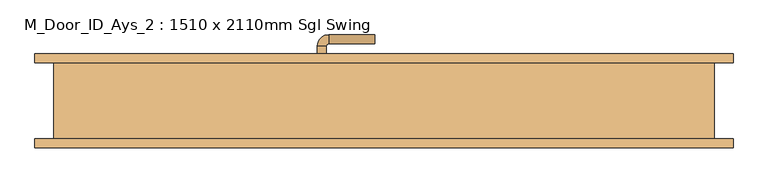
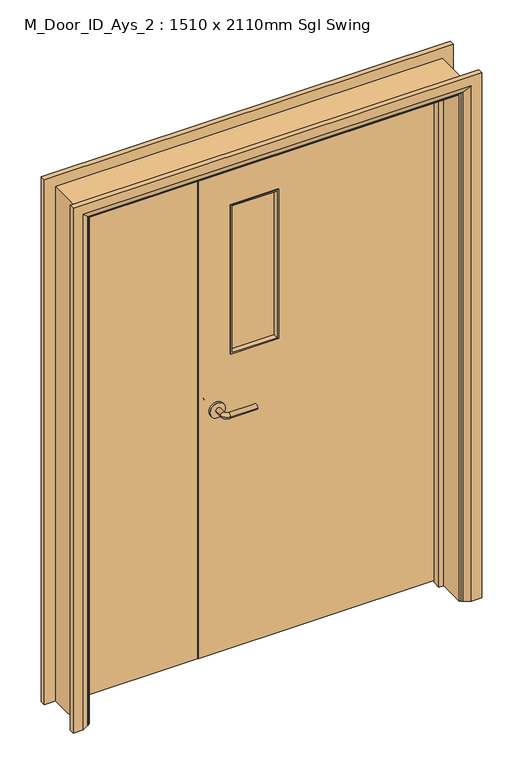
"""IFC4 building model written with IfcOpenShell, lengths in millimetres: door geometry, M_Door_ID_Ays_2 : 1510 x 2110mm Sgl Swing."""

from ifc_helpers import new_model, si_unit, point, frame, frame_2d, origin, place, context, project, spatial, polyline, circle_curve, ellipse_curve, trimmed, segment, composite_curve, outline, extrude, faceted_brep, source, transform, mapped, element, save
from ifc_brep_helpers import plane_surface, cylinder_surface, revolved_surface, advanced_brep


def m_door_id_ays_2_1510_x_2110mm_sgl_swing_9d738ba0(model_context):
    return source(origin(), model_context, "Body", "SolidModel", [
        advanced_brep(
        [(88.5, 46.0, 1000.0), (108.5, 46.0, 1000.0), (108.5, 16.0, 1000.0), (88.5, 16.0, 1000.0), (113.5, 11.0, 1000.0), (113.5, -9.0, 1000.0), (218.5, -9.0, 1000.0), (218.5, 11.0, 1000.0)],
        [
            (0, 1, circle_curve(frame((98.5, 46.0, 1000.0), z_axis=(0.0, 1.0, 0.0), x_axis=(1.0, 0.0, 0.0)), 10.0)),
            (1, 0, circle_curve(frame((98.5, 46.0, 1000.0), z_axis=(0.0, 1.0, 0.0), x_axis=(1.0, 0.0, 0.0)), 10.0)),
            (1, 2),
            (2, 3, circle_curve(frame((98.5, 16.0, 1000.0), z_axis=(0.0, 1.0, 0.0), x_axis=(1.0, 0.0, 0.0)), 10.0)),
            (3, 0),
            (3, 2, circle_curve(frame((98.5, 16.0, 1000.0), z_axis=(0.0, 1.0, 0.0), x_axis=(1.0, 0.0, 0.0)), 10.0)),
            (4, 5, circle_curve(frame((113.5, 1.0, 1000.0), z_axis=(-1.0, 0.0, 0.0), x_axis=(0.0, 1.0, 0.0)), 10.0)),
            (5, 3, circle_curve(frame((113.5, 16.0, 1000.0), z_axis=(0.0, 0.0, -1.0), x_axis=(-1.0, 0.0, 0.0)), 25.0)),
            (2, 4, circle_curve(frame((113.5, 16.0, 1000.0), z_axis=(0.0, 0.0, 1.0), x_axis=(-1.0, 0.0, 0.0)), 5.0)),
            (5, 4, circle_curve(frame((113.5, 1.0, 1000.0), z_axis=(-1.0, 0.0, 0.0), x_axis=(0.0, 1.0, 0.0)), 10.0)),
            (6, 7, circle_curve(frame((218.5, 1.0, 1000.0), z_axis=(1.0, 0.0, 0.0), x_axis=(0.0, 1.0, 0.0)), 10.0)),
            (7, 6, circle_curve(frame((218.5, 1.0, 1000.0), z_axis=(1.0, 0.0, 0.0), x_axis=(0.0, 1.0, 0.0)), 10.0)),
            (4, 7),
            (6, 5),
        ],
        [
            plane_surface(frame((98.5, 46.0, 1000.0), z_axis=(0.0, 1.0, 0.0), x_axis=(0.0, 0.0, 1.0))),
            cylinder_surface(frame((98.5, 46.0, 1000.0), z_axis=(0.0, 1.0, 0.0), x_axis=(1.0, 0.0, 0.0)), 10.0),
            revolved_surface(trimmed(ellipse_curve(frame((98.5, 16.0, 1000.0), z_axis=(0.0, -1.0, 0.0), x_axis=(1.0, 0.0, 0.0)), 10.0, 10.0), [point((88.5, 16.0, 1000.0))], [point((108.5, 16.0, 1000.0))], True, "CARTESIAN"), (113.5, 16.0, 1000.0), (0.0, 0.0, -1.0)),
            revolved_surface(trimmed(ellipse_curve(frame((98.5, 16.0, 1000.0), z_axis=(0.0, -1.0, 0.0), x_axis=(1.0, 0.0, 0.0)), 10.0, 10.0), [point((108.5, 16.0, 1000.0))], [point((88.5, 16.0, 1000.0))], True, "CARTESIAN"), (113.5, 16.0, 1000.0), (0.0, 0.0, -1.0)),
            plane_surface(frame((218.5, 1.0, 1000.0), z_axis=(1.0, 0.0, 0.0), x_axis=(0.0, 0.0, 1.0))),
            cylinder_surface(frame((113.5, 1.0, 1000.0), z_axis=(-1.0, 0.0, 0.0), x_axis=(0.0, 1.0, 0.0)), 10.0),
        ],
        [
            (0, [[1, 2]]),
            (1, [[3, 4, 5, -2]]),
            (1, [[-5, 6, -3, -1]]),
            (2, [[7, 8, -4, 9]]),
            (3, [[10, -9, -6, -8]]),
            (4, [[11, 12]]),
            (5, [[13, -11, 14, -7]]),
            (5, [[-14, -12, -13, -10]]),
        ],
    ),
        extrude(outline(composite_curve([segment(trimmed(circle_curve(frame_2d((1000.0, 96.0)), 30.0), [point((1000.0, 66.0))], [point((1000.0, 126.0))], False, "CARTESIAN"), True, "CONTINUOUS"), segment(trimmed(circle_curve(frame_2d((1000.0, 96.0)), 30.0), [point((1000.0, 126.0))], [point((1000.0, 66.0))], False, "CARTESIAN"), True, "CONTINUOUS")], self_intersect=False)), frame((0.0, 46.0, 0.0), z_axis=(0.0, 1.0, 0.0), x_axis=(0.0, 0.0, 1.0)), (0.0, 0.0, 1.0), 8.0),
        advanced_brep(
        [(88.5, 94.0, 1000.0), (108.5, 94.0, 1000.0), (88.5, 124.0, 1000.0), (108.5, 124.0, 1000.0), (113.5, 129.0, 1000.0), (113.5, 149.0, 1000.0), (218.5, 149.0, 1000.0), (218.5, 129.0, 1000.0)],
        [
            (0, 1, circle_curve(frame((98.5, 94.0, 1000.0), z_axis=(0.0, -1.0, 0.0), x_axis=(1.0, 0.0, 0.0)), 10.0)),
            (1, 0, circle_curve(frame((98.5, 94.0, 1000.0), z_axis=(0.0, -1.0, 0.0), x_axis=(1.0, 0.0, 0.0)), 10.0)),
            (0, 2),
            (2, 3, circle_curve(frame((98.5, 124.0, 1000.0), z_axis=(0.0, -1.0, 0.0), x_axis=(1.0, 0.0, 0.0)), 10.0)),
            (3, 1),
            (3, 2, circle_curve(frame((98.5, 124.0, 1000.0), z_axis=(0.0, -1.0, 0.0), x_axis=(1.0, 0.0, 0.0)), 10.0)),
            (4, 3, circle_curve(frame((113.5, 124.0, 1000.0), z_axis=(0.0, 0.0, 1.0), x_axis=(-1.0, 0.0, 0.0)), 5.0)),
            (2, 5, circle_curve(frame((113.5, 124.0, 1000.0), z_axis=(0.0, 0.0, -1.0), x_axis=(-1.0, 0.0, 0.0)), 25.0)),
            (5, 4, circle_curve(frame((113.5, 139.0, 1000.0), z_axis=(-1.0, 0.0, 0.0), x_axis=(0.0, -1.0, 0.0)), 10.0)),
            (4, 5, circle_curve(frame((113.5, 139.0, 1000.0), z_axis=(-1.0, 0.0, 0.0), x_axis=(0.0, -1.0, 0.0)), 10.0)),
            (6, 7, circle_curve(frame((218.5, 139.0, 1000.0), z_axis=(1.0, 0.0, 0.0), x_axis=(0.0, -1.0, 0.0)), 10.0)),
            (7, 6, circle_curve(frame((218.5, 139.0, 1000.0), z_axis=(1.0, 0.0, 0.0), x_axis=(0.0, -1.0, 0.0)), 10.0)),
            (5, 6),
            (7, 4),
        ],
        [
            plane_surface(frame((98.5, 94.0, 1000.0), z_axis=(0.0, -1.0, 0.0), x_axis=(0.0, 0.0, 1.0))),
            cylinder_surface(frame((98.5, 94.0, 1000.0), z_axis=(0.0, -1.0, 0.0), x_axis=(1.0, 0.0, 0.0)), 10.0),
            revolved_surface(trimmed(ellipse_curve(frame((98.5, 124.0, 1000.0), z_axis=(0.0, -1.0, 0.0), x_axis=(1.0, 0.0, 0.0)), 10.0, 10.0), [point((88.5, 124.0, 1000.0))], [point((108.5, 124.0, 1000.0))], True, "CARTESIAN"), (113.5, 124.0, 1000.0), (0.0, 0.0, -1.0)),
            revolved_surface(trimmed(ellipse_curve(frame((98.5, 124.0, 1000.0), z_axis=(0.0, -1.0, 0.0), x_axis=(1.0, 0.0, 0.0)), 10.0, 10.0), [point((108.5, 124.0, 1000.0))], [point((88.5, 124.0, 1000.0))], True, "CARTESIAN"), (113.5, 124.0, 1000.0), (0.0, 0.0, -1.0)),
            plane_surface(frame((218.5, 139.0, 1000.0), z_axis=(1.0, 0.0, 0.0), x_axis=(0.0, 0.0, 1.0))),
            cylinder_surface(frame((113.5, 139.0, 1000.0), z_axis=(-1.0, 0.0, 0.0), x_axis=(0.0, -1.0, 0.0)), 10.0),
        ],
        [
            (0, [[1, 2]]),
            (1, [[-1, 3, 4, 5]]),
            (1, [[-2, -5, 6, -3]]),
            (2, [[7, -4, 8, 9]]),
            (3, [[-8, -6, -7, 10]]),
            (4, [[11, 12]]),
            (5, [[-9, 13, -12, 14]]),
            (5, [[-10, -14, -11, -13]]),
        ],
    ),
        extrude(outline(composite_curve([segment(trimmed(circle_curve(frame_2d((1000.0, 96.0)), 30.0), [point((1000.0, 66.0))], [point((1000.0, 126.0))], False, "CARTESIAN"), True, "CONTINUOUS"), segment(trimmed(circle_curve(frame_2d((1000.0, 96.0)), 30.0), [point((1000.0, 126.0))], [point((1000.0, 66.0))], False, "CARTESIAN"), True, "CONTINUOUS")], self_intersect=False)), frame((0.0, 86.0, 0.0), z_axis=(0.0, 1.0, 0.0), x_axis=(0.0, 0.0, 1.0)), (0.0, 0.0, 1.0), 8.0),
        extrude(outline(polyline([(2102.0, -508.0), (0.0, -508.0), (0.0, -476.0), (2070.0, -476.0), (2070.0, 954.0), (0.0, 954.0), (0.0, 986.0), (2102.0, 986.0), (2102.0, -508.0)])), frame((0.0, -86.0, 0.0), z_axis=(0.0, 1.0, 0.0), x_axis=(0.0, 0.0, 1.0)), (0.0, 0.0, 1.0), 172.0),
        faceted_brep([(-457.0, 51.0, 0.0), (-457.0, 19.0, 0.0), (-476.0, 19.0, 0.0), (-476.0, 51.0, 0.0), (-457.0, 51.0, 2051.0), (-457.0, 19.0, 2051.0), (-476.0, 19.0, 2070.0), (-476.0, 51.0, 2070.0), (935.0, 51.0, 0.0), (954.0, 51.0, 0.0), (954.0, 19.0, 0.0), (935.0, 19.0, 0.0), (935.0, 51.0, 2051.0), (954.0, 51.0, 2070.0), (954.0, 19.0, 2070.0), (935.0, 19.0, 2051.0)], [[[0, 1, 2, 3]], [[1, 0, 4, 5]], [[2, 1, 5, 6]], [[3, 2, 6, 7]], [[0, 3, 7, 4]], [[8, 9, 10, 11]], [[12, 13, 9, 8]], [[13, 14, 10, 9]], [[14, 15, 11, 10]], [[15, 12, 8, 11]], [[5, 4, 12, 15]], [[6, 5, 15, 14]], [[7, 6, 14, 13]], [[4, 7, 13, 12]]]),
        advanced_brep(
        [(1029.0, 106.0, 0.0), (1029.0, 86.0, 0.0), (959.0, 86.0, 0.0), (963.0, 92.0, 0.0), (989.0, 106.0, 0.0), (1029.0, 106.0, 2145.0), (1029.0, 86.0, 2145.0), (-551.0, 86.0, 2145.0), (-551.0, 86.0, 0.0), (-481.0, 86.0, 0.0), (-481.0, 86.0, 2075.0), (959.0, 86.0, 2075.0), (963.0, 92.0, 2079.0), (989.0, 106.0, 2105.0), (-511.0, 106.0, 2105.0), (-511.0, 106.0, 0.0), (-551.0, 106.0, 0.0), (-551.0, 106.0, 2145.0), (-485.0, 92.0, 0.0), (-485.0, 92.0, 2079.0)],
        [
            (0, 1),
            (1, 2),
            (2, 3, circle_curve(frame((967.0, 85.0, 0.0), z_axis=(0.0, 0.0, -1.0), x_axis=(1.0, 0.0, 0.0)), 8.0622577)),
            (3, 4),
            (4, 0),
            (0, 5),
            (5, 6),
            (6, 1),
            (6, 7),
            (7, 8),
            (8, 9),
            (9, 10),
            (10, 11),
            (11, 2),
            (11, 12, ellipse_curve(frame((967.0, 85.0, 2083.0), z_axis=(0.7071067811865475, 0.0, -0.7071067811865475), x_axis=(-0.7071067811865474, 0.0, -0.7071067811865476)), 11.4017543, 8.0622577)),
            (12, 3),
            (12, 13),
            (13, 4),
            (13, 14),
            (14, 15),
            (15, 16),
            (16, 17),
            (17, 5),
            (7, 17),
            (16, 8),
            (15, 18),
            (18, 9, circle_curve(frame((-489.0, 85.0, 0.0), z_axis=(0.0, 0.0, -1.0), x_axis=(-1.0, 0.0, 0.0)), 8.0622577)),
            (19, 10, ellipse_curve(frame((-489.0, 85.0, 2083.0), z_axis=(-0.7071067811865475, 0.0, -0.7071067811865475), x_axis=(-0.7071067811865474, 0.0, 0.7071067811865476)), 11.4017543, 8.0622577)),
            (18, 19),
            (14, 19),
            (19, 12),
        ],
        [
            plane_surface(frame((959.0, 86.0, 0.0), z_axis=(0.0, 0.0, -1.0), x_axis=(0.0, -1.0, 0.0))),
            plane_surface(frame((1029.0, 106.0, 0.0), z_axis=(1.0, 0.0, 0.0), x_axis=(0.0, 0.0, 1.0))),
            plane_surface(frame((1029.0, 86.0, 0.0), z_axis=(0.0, -1.0, 0.0), x_axis=(0.0, 0.0, 1.0))),
            cylinder_surface(frame((967.0, 85.0, 0.0), z_axis=(0.0, 0.0, -1.0), x_axis=(1.0, 0.0, 0.0)), 8.0622577),
            plane_surface(frame((963.0, 92.0, 0.0), z_axis=(-0.4740998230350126, 0.8804710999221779, 0.0), x_axis=(0.0, 0.0, 1.0))),
            plane_surface(frame((989.0, 106.0, 0.0), z_axis=(0.0, 1.0, 0.0), x_axis=(0.0, 0.0, 1.0))),
            plane_surface(frame((-551.0, 106.0, 2145.0), z_axis=(-1.0, 0.0, 0.0), x_axis=(0.0, 0.0, -1.0))),
            plane_surface(frame((-481.0, 86.0, 0.0), z_axis=(0.0, 0.0, -1.0), x_axis=(0.0, -1.0, 0.0))),
            cylinder_surface(frame((-489.0, 85.0, 2075.0), z_axis=(0.0, 0.0, 1.0), x_axis=(-1.0, 0.0, 0.0)), 8.0622577),
            plane_surface(frame((-485.0, 92.0, 2079.0), z_axis=(0.4740998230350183, 0.8804710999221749, 0.0), x_axis=(0.0, 0.0, -1.0))),
            plane_surface(frame((1029.0, 106.0, 2145.0), z_axis=(0.0, 0.0, 1.0), x_axis=(-1.0, 0.0, 0.0))),
            cylinder_surface(frame((959.0, 85.0, 2083.0), z_axis=(1.0, 0.0, 0.0), x_axis=(0.0, 0.0, 1.0)), 8.0622577),
            plane_surface(frame((963.0, 92.0, 2079.0), z_axis=(0.0, 0.8804710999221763, -0.4740998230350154), x_axis=(-1.0, 0.0, 0.0))),
        ],
        [
            (0, [[1, 2, 3, 4, 5]]),
            (1, [[-1, 6, 7, 8]]),
            (2, [[-2, -8, 9, 10, 11, 12, 13, 14]]),
            (3, [[-3, -14, 15, 16]]),
            (4, [[-4, -16, 17, 18]]),
            (5, [[-5, -18, 19, 20, 21, 22, 23, -6]]),
            (6, [[24, -22, 25, -10]]),
            (7, [[-21, 26, 27, -11, -25]]),
            (8, [[28, -12, -27, 29]]),
            (9, [[30, -29, -26, -20]]),
            (10, [[-7, -23, -24, -9]]),
            (11, [[-15, -13, -28, 31]]),
            (12, [[-17, -31, -30, -19]]),
        ],
    ),
        advanced_brep(
        [(-551.0, -106.0, 0.0), (-551.0, -86.0, 0.0), (-481.0, -86.0, 0.0), (-485.0, -92.0, 0.0), (-511.0, -106.0, 0.0), (-551.0, -106.0, 2145.0), (-551.0, -86.0, 2145.0), (1029.0, -86.0, 2145.0), (1029.0, -86.0, 0.0), (959.0, -86.0, 0.0), (959.0, -86.0, 2075.0), (-481.0, -86.0, 2075.0), (-485.0, -92.0, 2079.0), (-511.0, -106.0, 2105.0), (989.0, -106.0, 2105.0), (989.0, -106.0, 0.0), (1029.0, -106.0, 0.0), (1029.0, -106.0, 2145.0), (963.0, -92.0, 0.0), (963.0, -92.0, 2079.0)],
        [
            (0, 1),
            (1, 2),
            (2, 3, circle_curve(frame((-489.0, -85.0, 0.0), z_axis=(0.0, 0.0, -1.0), x_axis=(-1.0, 0.0, 0.0)), 8.0622577)),
            (3, 4),
            (4, 0),
            (0, 5),
            (5, 6),
            (6, 1),
            (6, 7),
            (7, 8),
            (8, 9),
            (9, 10),
            (10, 11),
            (11, 2),
            (11, 12, ellipse_curve(frame((-489.0, -85.0, 2083.0), z_axis=(-0.7071067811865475, 0.0, -0.7071067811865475), x_axis=(0.7071067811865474, 0.0, -0.7071067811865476)), 11.4017543, 8.0622577)),
            (12, 3),
            (12, 13),
            (13, 4),
            (13, 14),
            (14, 15),
            (15, 16),
            (16, 17),
            (17, 5),
            (7, 17),
            (16, 8),
            (15, 18),
            (18, 9, circle_curve(frame((967.0, -85.0, 0.0), z_axis=(0.0, 0.0, -1.0), x_axis=(1.0, 0.0, 0.0)), 8.0622577)),
            (19, 10, ellipse_curve(frame((967.0, -85.0, 2083.0), z_axis=(0.7071067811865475, 0.0, -0.7071067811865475), x_axis=(0.7071067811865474, 0.0, 0.7071067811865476)), 11.4017543, 8.0622577)),
            (18, 19),
            (14, 19),
            (19, 12),
        ],
        [
            plane_surface(frame((-481.0, -86.0, 0.0), z_axis=(0.0, 0.0, -1.0), x_axis=(0.0, -1.0, 0.0))),
            plane_surface(frame((-551.0, -106.0, 0.0), z_axis=(-1.0, 0.0, 0.0), x_axis=(0.0, 0.0, 1.0))),
            plane_surface(frame((-551.0, -86.0, 0.0), z_axis=(0.0, 1.0, 0.0), x_axis=(0.0, 0.0, 1.0))),
            cylinder_surface(frame((-489.0, -85.0, 0.0), z_axis=(0.0, 0.0, -1.0), x_axis=(-1.0, 0.0, 0.0)), 8.0622577),
            plane_surface(frame((-485.0, -92.0, 0.0), z_axis=(0.4740998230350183, -0.8804710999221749, 0.0), x_axis=(0.0, 0.0, 1.0))),
            plane_surface(frame((-511.0, -106.0, 0.0), z_axis=(0.0, -1.0, 0.0), x_axis=(0.0, 0.0, 1.0))),
            plane_surface(frame((1029.0, -106.0, 2145.0), z_axis=(1.0, 0.0, 0.0), x_axis=(0.0, 0.0, -1.0))),
            plane_surface(frame((959.0, -86.0, 0.0), z_axis=(0.0, 0.0, -1.0), x_axis=(0.0, -1.0, 0.0))),
            cylinder_surface(frame((967.0, -85.0, 2075.0), z_axis=(0.0, 0.0, 1.0), x_axis=(1.0, 0.0, 0.0)), 8.0622577),
            plane_surface(frame((963.0, -92.0, 2079.0), z_axis=(-0.4740998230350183, -0.8804710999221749, 0.0), x_axis=(0.0, 0.0, -1.0))),
            plane_surface(frame((-551.0, -106.0, 2145.0), z_axis=(0.0, 0.0, 1.0), x_axis=(1.0, 0.0, 0.0))),
            cylinder_surface(frame((-481.0, -85.0, 2083.0), z_axis=(-1.0, 0.0, 0.0), x_axis=(0.0, 0.0, 1.0)), 8.0622577),
            plane_surface(frame((-485.0, -92.0, 2079.0), z_axis=(0.0, -0.8804710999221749, -0.4740998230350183), x_axis=(1.0, 0.0, 0.0))),
        ],
        [
            (0, [[1, 2, 3, 4, 5]]),
            (1, [[-1, 6, 7, 8]]),
            (2, [[-2, -8, 9, 10, 11, 12, 13, 14]]),
            (3, [[-3, -14, 15, 16]]),
            (4, [[-4, -16, 17, 18]]),
            (5, [[-5, -18, 19, 20, 21, 22, 23, -6]]),
            (6, [[24, -22, 25, -10]]),
            (7, [[-21, 26, 27, -11, -25]]),
            (8, [[28, -12, -27, 29]]),
            (9, [[30, -29, -26, -20]]),
            (10, [[-7, -23, -24, -9]]),
            (11, [[-15, -13, -28, 31]]),
            (12, [[-17, -31, -30, -19]]),
        ],
    ),
        extrude(outline(polyline([(5.753223, 951.0), (2067.0, 951.0), (2067.0, 25.0), (5.753223, 25.0), (5.753223, 951.0)]), holes=[polyline([(1817.0, 150.0), (1817.0, 335.0), (1207.0, 335.0), (1207.0, 150.0), (1817.0, 150.0)])]), frame((0.0, 54.0, 0.0), z_axis=(0.0, 1.0, 0.0), x_axis=(0.0, 0.0, 1.0)), (0.0, 0.0, 1.0), 32.0),
        extrude(outline(polyline([(22.0, 54.0), (-473.0, 54.0), (-473.0, 86.0), (22.0, 86.0), (22.0, 54.0)])), frame((0.0, 0.0, 5.753223), z_axis=(0.0, 0.0, 1.0), x_axis=(1.0, 0.0, 0.0)), (0.0, 0.0, 1.0), 2061.246777),
        extrude(outline(polyline([(335.0, 64.0), (150.0, 64.0), (150.0, 76.0), (335.0, 76.0), (335.0, 64.0)])), frame((0.0, 0.0, 1207.0), z_axis=(0.0, 0.0, 1.0), x_axis=(1.0, 0.0, 0.0)), (0.0, 0.0, 1.0), 610.0),
        faceted_brep([(150.0, 89.0, 1207.0), (150.0, 76.0, 1207.0), (150.0, 76.0, 1817.0), (150.0, 89.0, 1817.0), (162.0, 76.0, 1219.0), (156.0, 89.0, 1213.0), (156.0, 89.0, 1811.0), (162.0, 76.0, 1805.0), (335.0, 76.0, 1817.0), (335.0, 89.0, 1817.0), (329.0, 89.0, 1811.0), (323.0, 76.0, 1805.0), (335.0, 76.0, 1207.0), (335.0, 89.0, 1207.0), (329.0, 89.0, 1213.0), (323.0, 76.0, 1219.0)], [[[0, 1, 2, 3]], [[4, 5, 6, 7]], [[3, 2, 8, 9]], [[7, 6, 10, 11]], [[9, 8, 12, 13]], [[11, 10, 14, 15]], [[1, 12, 8, 2], [7, 11, 15, 4]], [[13, 12, 1, 0]], [[3, 9, 13, 0], [5, 14, 10, 6]], [[15, 14, 5, 4]]]),
        faceted_brep([(335.0, 51.0, 1207.0), (335.0, 64.0, 1207.0), (335.0, 64.0, 1817.0), (335.0, 51.0, 1817.0), (323.0, 64.0, 1219.0), (329.0, 51.0, 1213.0), (329.0, 51.0, 1811.0), (323.0, 64.0, 1805.0), (150.0, 64.0, 1817.0), (150.0, 51.0, 1817.0), (156.0, 51.0, 1811.0), (162.0, 64.0, 1805.0), (150.0, 64.0, 1207.0), (150.0, 51.0, 1207.0), (156.0, 51.0, 1213.0), (162.0, 64.0, 1219.0)], [[[0, 1, 2, 3]], [[4, 5, 6, 7]], [[3, 2, 8, 9]], [[7, 6, 10, 11]], [[9, 8, 12, 13]], [[11, 10, 14, 15]], [[1, 12, 8, 2], [7, 11, 15, 4]], [[13, 12, 1, 0]], [[3, 9, 13, 0], [5, 14, 10, 6]], [[15, 14, 5, 4]]]),
    ])


if __name__ == "__main__":
    model = new_model("IFC4")
    model_context = context("Model", 3, world=origin())
    ifc_project = project(units=[si_unit("LENGTHUNIT", "METRE", prefix="MILLI")], contexts=[model_context])
    site = spatial("IfcSite", under=ifc_project)
    building = spatial("IfcBuilding", under=site)
    placement = place(None, origin())
    m_door_id_ays_2_1510_x_2110mm_sgl_swing_shape = m_door_id_ays_2_1510_x_2110mm_sgl_swing_9d738ba0(model_context)
    element("IfcDoor", 1, ObjectType="M_Door_ID_Ays_2 : 1510 x 2110mm Sgl Swing", at=placement, inside=building, context=model_context, shape_type="MappedRepresentation", body=[
        mapped(m_door_id_ays_2_1510_x_2110mm_sgl_swing_shape, transform((0.0, 0.0, 0.0), x_axis=(1.0, 0.0, 0.0), y_axis=(0.0, 1.0, 0.0), z_axis=(0.0, 0.0, 1.0))),
    ])
    save(model, "model.ifc")
